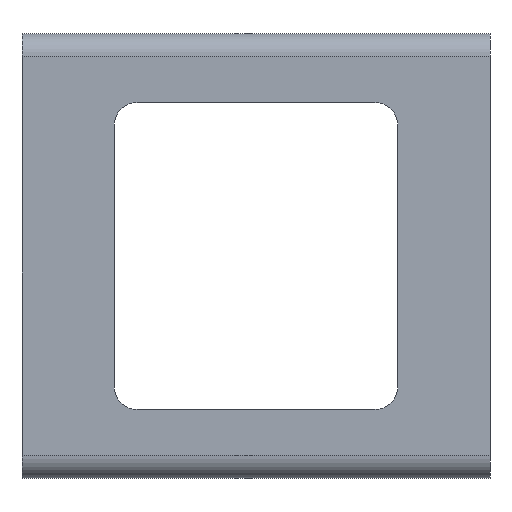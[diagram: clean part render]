
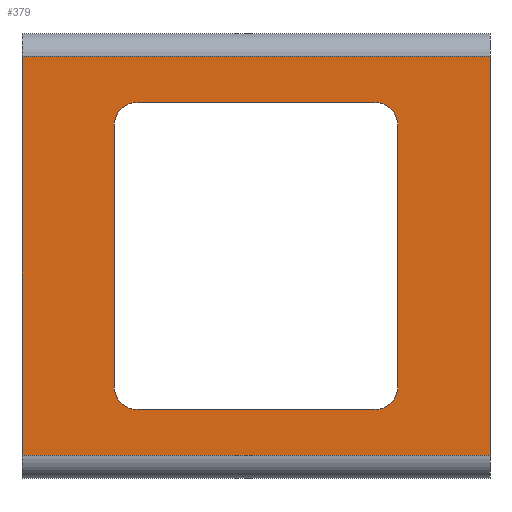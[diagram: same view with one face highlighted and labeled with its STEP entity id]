
A CAD part, top view. The second image highlights one B-rep face of the part: STEP entity #379.
In plain terms, the highlighted planar face has unit normal (0, 0, 1).
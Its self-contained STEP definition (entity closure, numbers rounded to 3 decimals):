
#6 = DIRECTION ( 'NONE',  ( 0., 1., 0. ) ) ;
#9 = CARTESIAN_POINT ( 'NONE',  ( 12., 43., 3. ) ) ;
#10 = CARTESIAN_POINT ( 'NONE',  ( 0., 52., 3. ) ) ;
#17 = CARTESIAN_POINT ( 'NONE',  ( 49., 9., 3. ) ) ;
#35 = CARTESIAN_POINT ( 'NONE',  ( 15., 6., 3. ) ) ;
#37 = CARTESIAN_POINT ( 'NONE',  ( 61., 52., 3. ) ) ;
#50 = CARTESIAN_POINT ( 'NONE',  ( 0., 0., 3. ) ) ;
#54 = CARTESIAN_POINT ( 'NONE',  ( 61., 0., 3. ) ) ;
#55 = CARTESIAN_POINT ( 'NONE',  ( 15., 46., 3. ) ) ;
#69 = CARTESIAN_POINT ( 'NONE',  ( 12., 9., 3. ) ) ;
#71 = CARTESIAN_POINT ( 'NONE',  ( 46., 46., 3. ) ) ;
#73 = CARTESIAN_POINT ( 'NONE',  ( 46., 6., 3. ) ) ;
#77 = VERTEX_POINT ( 'NONE', #102 ) ;
#80 = VERTEX_POINT ( 'NONE', #35 ) ;
#81 = VERTEX_POINT ( 'NONE', #71 ) ;
#85 = VERTEX_POINT ( 'NONE', #73 ) ;
#88 = VERTEX_POINT ( 'NONE', #50 ) ;
#92 = VERTEX_POINT ( 'NONE', #37 ) ;
#93 = VERTEX_POINT ( 'NONE', #17 ) ;
#96 = VERTEX_POINT ( 'NONE', #10 ) ;
#97 = VERTEX_POINT ( 'NONE', #9 ) ;
#99 = VERTEX_POINT ( 'NONE', #69 ) ;
#102 = CARTESIAN_POINT ( 'NONE',  ( 49., 43., 3. ) ) ;
#103 = VERTEX_POINT ( 'NONE', #55 ) ;
#106 = VERTEX_POINT ( 'NONE', #54 ) ;
#154 = CARTESIAN_POINT ( 'NONE',  ( 61., 52., 3. ) ) ;
#155 = DIRECTION ( 'NONE',  ( 0., -1., 0. ) ) ;
#162 = CARTESIAN_POINT ( 'NONE',  ( 0., 52., 3. ) ) ;
#163 = DIRECTION ( 'NONE',  ( 0., -1., 0. ) ) ;
#164 = CARTESIAN_POINT ( 'NONE',  ( 61., 52., 3. ) ) ;
#165 = DIRECTION ( 'NONE',  ( -1., 0., 0. ) ) ;
#169 = CARTESIAN_POINT ( 'NONE',  ( 12., 43., 3. ) ) ;
#170 = DIRECTION ( 'NONE',  ( 0., -1., 0. ) ) ;
#171 = CARTESIAN_POINT ( 'NONE',  ( 15., 43., 3. ) ) ;
#172 = DIRECTION ( 'NONE',  ( 0., 0., 1. ) ) ;
#173 = DIRECTION ( 'NONE',  ( 1., 0., 0. ) ) ;
#175 = CARTESIAN_POINT ( 'NONE',  ( 15., 46., 3. ) ) ;
#176 = DIRECTION ( 'NONE',  ( -1., 0., 0. ) ) ;
#177 = CARTESIAN_POINT ( 'NONE',  ( 46., 43., 3. ) ) ;
#178 = DIRECTION ( 'NONE',  ( 0., 0., 1. ) ) ;
#179 = DIRECTION ( 'NONE',  ( -1., 0., 0. ) ) ;
#180 = CARTESIAN_POINT ( 'NONE',  ( 49., 43., 3. ) ) ;
#181 = DIRECTION ( 'NONE',  ( 0., 1., 0. ) ) ;
#183 = CARTESIAN_POINT ( 'NONE',  ( 46., 9., 3. ) ) ;
#184 = DIRECTION ( 'NONE',  ( 0., 0., 1. ) ) ;
#185 = DIRECTION ( 'NONE',  ( 1., 0., 0. ) ) ;
#186 = CARTESIAN_POINT ( 'NONE',  ( 15., 6., 3. ) ) ;
#187 = DIRECTION ( 'NONE',  ( 1., 0., 0. ) ) ;
#188 = CARTESIAN_POINT ( 'NONE',  ( 15., 9., 3. ) ) ;
#189 = DIRECTION ( 'NONE',  ( 0., 0., 1. ) ) ;
#190 = DIRECTION ( 'NONE',  ( 1., 0., 0. ) ) ;
#191 = CARTESIAN_POINT ( 'NONE',  ( 61., 0., 3. ) ) ;
#192 = DIRECTION ( 'NONE',  ( -1., 0., 0. ) ) ;
#217 = PLANE ( 'NONE',  #455 ) ;
#218 = DIRECTION ( 'NONE',  ( 0., 0., -1. ) ) ;
#219 = CARTESIAN_POINT ( 'NONE',  ( 61., 52., 3. ) ) ;
#273 = FACE_BOUND ( 'NONE', #538, .T. ) ;
#274 = FACE_OUTER_BOUND ( 'NONE', #540, .T. ) ;
#304 = LINE ( 'NONE', #154, #305 ) ;
#305 = VECTOR ( 'NONE', #155, 1000. ) ;
#307 = LINE ( 'NONE', #162, #309 ) ;
#309 = VECTOR ( 'NONE', #163, 1000. ) ;
#310 = LINE ( 'NONE', #164, #311 ) ;
#311 = VECTOR ( 'NONE', #165, 1000. ) ;
#338 = LINE ( 'NONE', #169, #339 ) ;
#339 = VECTOR ( 'NONE', #170, 1000. ) ;
#340 = LINE ( 'NONE', #175, #342 ) ;
#341 = CIRCLE ( 'NONE', #446, 3. ) ;
#342 = VECTOR ( 'NONE', #176, 1000. ) ;
#343 = LINE ( 'NONE', #180, #345 ) ;
#344 = CIRCLE ( 'NONE', #445, 3. ) ;
#345 = VECTOR ( 'NONE', #181, 1000. ) ;
#346 = LINE ( 'NONE', #186, #348 ) ;
#347 = CIRCLE ( 'NONE', #444, 3. ) ;
#348 = VECTOR ( 'NONE', #187, 1000. ) ;
#349 = LINE ( 'NONE', #191, #351 ) ;
#350 = CIRCLE ( 'NONE', #443, 3. ) ;
#351 = VECTOR ( 'NONE', #192, 1000. ) ;
#379 = ADVANCED_FACE ( 'NONE', ( #273, #274 ), #217, .F. ) ;
#409 = ORIENTED_EDGE ( 'NONE', *, *, #483, .F. ) ;
#411 = ORIENTED_EDGE ( 'NONE', *, *, #482, .F. ) ;
#431 = ORIENTED_EDGE ( 'NONE', *, *, #481, .F. ) ;
#443 = AXIS2_PLACEMENT_3D ( 'NONE', #188, #189, #190 ) ;
#444 = AXIS2_PLACEMENT_3D ( 'NONE', #183, #184, #185 ) ;
#445 = AXIS2_PLACEMENT_3D ( 'NONE', #177, #178, #179 ) ;
#446 = AXIS2_PLACEMENT_3D ( 'NONE', #171, #172, #173 ) ;
#455 = AXIS2_PLACEMENT_3D ( 'NONE', #219, #218, #6 ) ;
#474 = EDGE_CURVE ( 'NONE', #92, #106, #304, .T. ) ;
#477 = EDGE_CURVE ( 'NONE', #96, #88, #307, .T. ) ;
#478 = EDGE_CURVE ( 'NONE', #92, #96, #310, .T. ) ;
#480 = EDGE_CURVE ( 'NONE', #97, #99, #338, .T. ) ;
#481 = EDGE_CURVE ( 'NONE', #103, #97, #341, .T. ) ;
#482 = EDGE_CURVE ( 'NONE', #81, #103, #340, .T. ) ;
#483 = EDGE_CURVE ( 'NONE', #77, #81, #344, .T. ) ;
#484 = EDGE_CURVE ( 'NONE', #93, #77, #343, .T. ) ;
#485 = EDGE_CURVE ( 'NONE', #85, #93, #347, .T. ) ;
#486 = EDGE_CURVE ( 'NONE', #80, #85, #346, .T. ) ;
#487 = EDGE_CURVE ( 'NONE', #99, #80, #350, .T. ) ;
#488 = EDGE_CURVE ( 'NONE', #106, #88, #349, .T. ) ;
#510 = ORIENTED_EDGE ( 'NONE', *, *, #484, .F. ) ;
#513 = ORIENTED_EDGE ( 'NONE', *, *, #485, .F. ) ;
#514 = ORIENTED_EDGE ( 'NONE', *, *, #480, .F. ) ;
#517 = ORIENTED_EDGE ( 'NONE', *, *, #478, .T. ) ;
#519 = ORIENTED_EDGE ( 'NONE', *, *, #486, .F. ) ;
#520 = ORIENTED_EDGE ( 'NONE', *, *, #488, .F. ) ;
#521 = ORIENTED_EDGE ( 'NONE', *, *, #477, .T. ) ;
#529 = ORIENTED_EDGE ( 'NONE', *, *, #487, .F. ) ;
#532 = ORIENTED_EDGE ( 'NONE', *, *, #474, .F. ) ;
#538 = EDGE_LOOP ( 'NONE', ( #514, #431, #411, #409, #510, #513, #519, #529 ) ) ;
#540 = EDGE_LOOP ( 'NONE', ( #521, #520, #532, #517 ) ) ;
